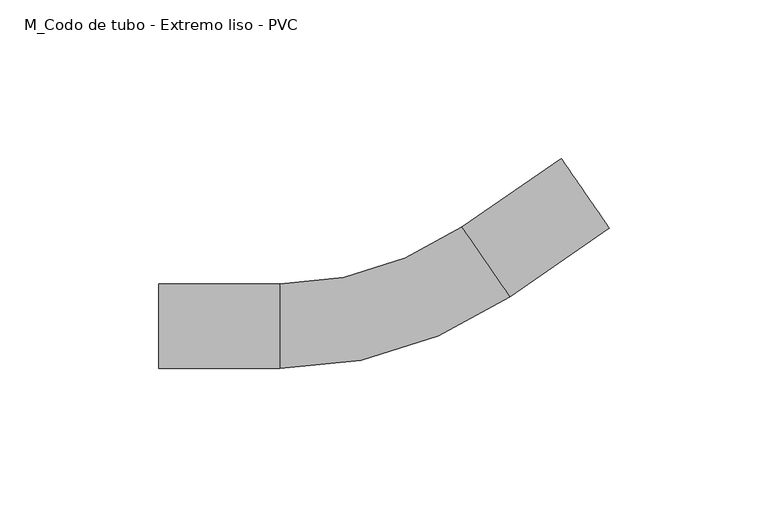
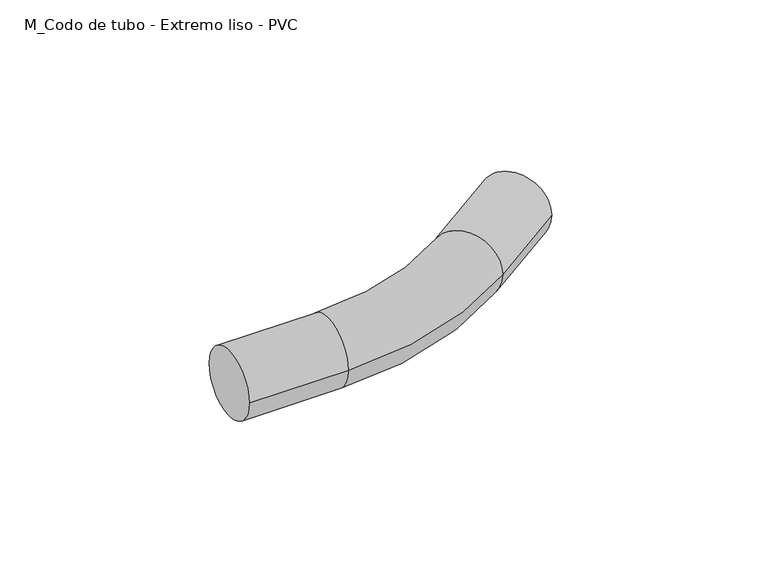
"""IFC4 building model written with IfcOpenShell, lengths in millimetres: cable carrier fitting geometry, M_Codo de tubo - Extremo liso - PVC : CODO ILUMINACION."""

from ifc_helpers import new_model, si_unit, point, frame, origin, place, context, project, spatial, circle_curve, ellipse_curve, trimmed, source, transform, mapped, element, save
from ifc_brep_helpers import plane_surface, cylinder_surface, revolved_surface, advanced_brep


def m_codo_de_tubo_extremo_liso_pvc_59586aee(model_context):
    return source(origin(), model_context, "Body", "AdvancedBrep", [
        advanced_brep(
        [(-73.7054947, -13.335, 0.0), (-73.7054947, 13.335, 0.0), (-35.6054947, -13.335, 0.0), (-35.6054947, 13.335, 0.0), (21.7334889, 31.1966175, 0.0), (36.8796355, 9.2447806, 0.0), (68.2394025, 30.8821329, 0.0), (53.0932558, 52.8339698, 0.0)],
        [
            (0, 1, circle_curve(frame((-73.7054947, 0.0, 0.0), z_axis=(-1.0, 0.0, 0.0), x_axis=(0.0, 1.0, 0.0)), 13.335)),
            (1, 0, circle_curve(frame((-73.7054947, 0.0, 0.0), z_axis=(-1.0, 0.0, 0.0), x_axis=(0.0, 1.0, 0.0)), 13.335)),
            (0, 2),
            (2, 3, circle_curve(frame((-35.6054947, 0.0, 0.0), z_axis=(-1.0, 0.0, 0.0), x_axis=(0.0, 1.0, 0.0)), 13.335)),
            (3, 1),
            (3, 2, circle_curve(frame((-35.6054947, 0.0, 0.0), z_axis=(-1.0, 0.0, 0.0), x_axis=(0.0, 1.0, 0.0)), 13.335)),
            (4, 3, circle_curve(frame((-35.6054947, 114.3, 0.0), z_axis=(0.0, 0.0, -1.0), x_axis=(0.0, -1.0, 0.0)), 100.965)),
            (2, 5, circle_curve(frame((-35.6054947, 114.3, 0.0), z_axis=(0.0, 0.0, 1.0), x_axis=(0.0, -1.0, 0.0)), 127.635)),
            (5, 4, circle_curve(frame((29.3065622, 20.220699, 0.0), z_axis=(-0.8230909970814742, -0.567909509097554, 0.0), x_axis=(-0.567909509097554, 0.8230909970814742, 0.0)), 13.335)),
            (4, 5, circle_curve(frame((29.3065622, 20.220699, 0.0), z_axis=(-0.8230909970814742, -0.567909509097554, 0.0), x_axis=(-0.567909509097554, 0.8230909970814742, 0.0)), 13.335)),
            (6, 7, circle_curve(frame((60.6663291, 41.8580513, 0.0), z_axis=(0.8230909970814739, 0.5679095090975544, 0.0), x_axis=(-0.5679095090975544, 0.8230909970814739, 0.0)), 13.335)),
            (7, 6, circle_curve(frame((60.6663291, 41.8580513, 0.0), z_axis=(0.8230909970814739, 0.5679095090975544, 0.0), x_axis=(-0.5679095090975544, 0.8230909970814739, 0.0)), 13.335)),
            (5, 6),
            (7, 4),
        ],
        [
            plane_surface(frame((-73.7054947, 0.0, 0.0), z_axis=(-1.0, 0.0, 0.0), x_axis=(0.0, 0.0, 1.0))),
            cylinder_surface(frame((-73.7054947, 0.0, 0.0), z_axis=(-1.0, 0.0, 0.0), x_axis=(0.0, 1.0, 0.0)), 13.335),
            revolved_surface(trimmed(ellipse_curve(frame((-35.6054947, 0.0, 0.0), z_axis=(-1.0, 0.0, 0.0), x_axis=(0.0, 1.0, 0.0)), 13.335, 13.335), [point((-35.6054947, -13.335, 0.0))], [point((-35.6054947, 13.335, 0.0))], True, "CARTESIAN"), (-35.6054947, 114.3, 0.0), (0.0, 0.0, 1.0)),
            revolved_surface(trimmed(ellipse_curve(frame((-35.6054947, 0.0, 0.0), z_axis=(-1.0, 0.0, 0.0), x_axis=(0.0, 1.0, 0.0)), 13.335, 13.335), [point((-35.6054947, 13.335, 0.0))], [point((-35.6054947, -13.335, 0.0))], True, "CARTESIAN"), (-35.6054947, 114.3, 0.0), (0.0, 0.0, 1.0)),
            plane_surface(frame((60.6663291, 41.8580513, 0.0), z_axis=(0.8230909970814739, 0.5679095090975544, 0.0), x_axis=(0.0, 0.0, 1.0))),
            cylinder_surface(frame((29.3065622, 20.220699, 0.0), z_axis=(-0.8230909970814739, -0.5679095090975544, 0.0), x_axis=(-0.5679095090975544, 0.8230909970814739, 0.0)), 13.335),
        ],
        [
            (0, [[1, 2]]),
            (1, [[-1, 3, 4, 5]]),
            (1, [[-2, -5, 6, -3]]),
            (2, [[7, -4, 8, 9]]),
            (3, [[-8, -6, -7, 10]]),
            (4, [[11, 12]]),
            (5, [[-9, 13, -12, 14]]),
            (5, [[-10, -14, -11, -13]]),
        ],
    ),
    ])


if __name__ == "__main__":
    model = new_model("IFC4")
    model_context = context("Model", 3, world=origin())
    ifc_project = project(units=[si_unit("LENGTHUNIT", "METRE", prefix="MILLI")], contexts=[model_context])
    site = spatial("IfcSite", under=ifc_project)
    building = spatial("IfcBuilding", under=site)
    placement = place(None, origin())
    m_codo_de_tubo_extremo_liso_pvc_shape = m_codo_de_tubo_extremo_liso_pvc_59586aee(model_context)
    element("IfcCableCarrierFitting", 1, ObjectType="M_Codo de tubo - Extremo liso - PVC : CODO ILUMINACION", at=placement, inside=building, context=model_context, shape_type="MappedRepresentation", body=[
        mapped(m_codo_de_tubo_extremo_liso_pvc_shape, transform((0.0, 0.0, 0.0), x_axis=(1.0, 0.0, 0.0), y_axis=(0.0, 1.0, 0.0), z_axis=(0.0, 0.0, 1.0))),
    ])
    save(model, "model.ifc")
